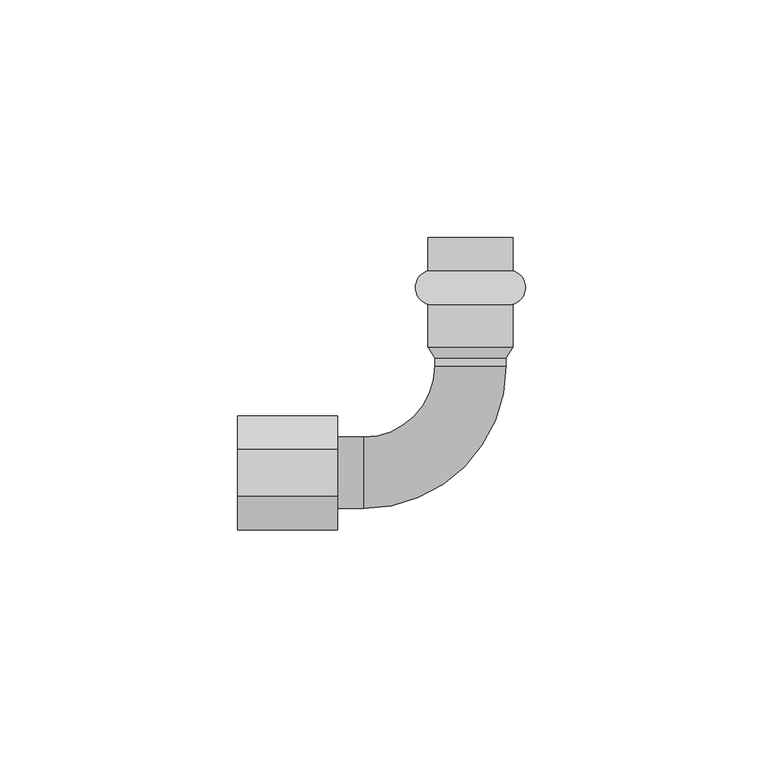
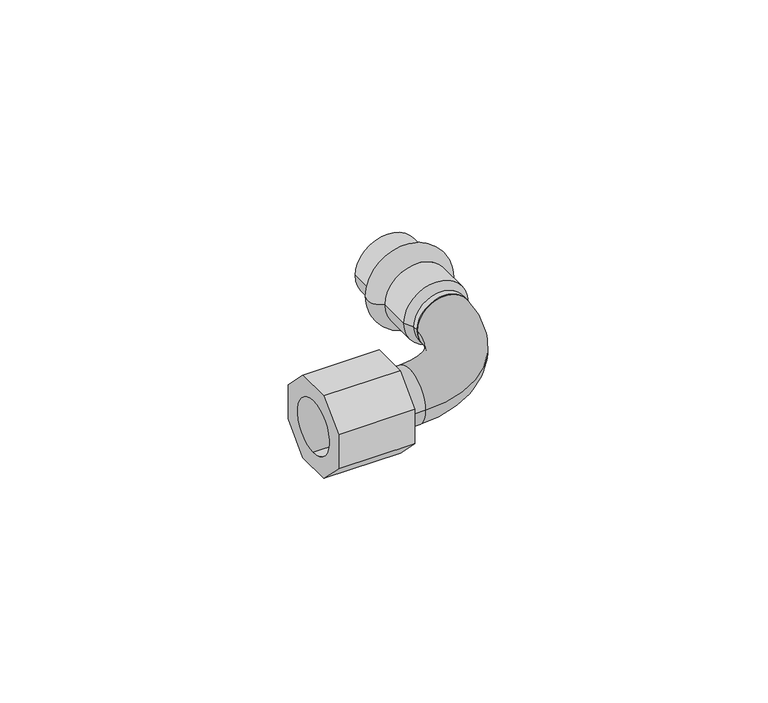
"""IFC4 building model written with IfcOpenShell, lengths in millimetres: valve geometry, Отвод_90°_с_переходом_на_внутреннюю_резьбу : Отвод_90°_с_переходом_на_внутреннюю_резьбу."""

from ifc_helpers import new_model, si_unit, point, frame, origin, origin_2d, place, context, project, spatial, polyline, circle_curve, ellipse_curve, trimmed, segment, composite_curve, outline, extrude, source, transform, mapped, element, save
from ifc_brep_helpers import plane_surface, cylinder_surface, revolved_surface, advanced_brep


def valve_882f7b1f(model_context):
    return source(origin(), model_context, "Body", "SolidModel", [
        extrude(outline(polyline([(4.9705627, -12.0), (-4.9705627, -12.0), (-12.0, -4.9705627), (-12.0, 4.9705627), (-4.9705627, 12.0), (4.9705627, 12.0), (12.0, 4.9705627), (12.0, -4.9705627), (4.9705627, -12.0)]), holes=[composite_curve([segment(trimmed(circle_curve(origin_2d(), 7.5), [point((0.0, 7.5))], [point((0.0, -7.5))], True, "CARTESIAN"), True, "CONTINUOUS"), segment(trimmed(circle_curve(origin_2d(), 7.5), [point((0.0, -7.5))], [point((0.0, 7.5))], True, "CARTESIAN"), True, "CONTINUOUS")], self_intersect=False)]), frame((-49.0, 0.0, 0.0), z_axis=(1.0, 0.0, 0.0), x_axis=(0.0, 1.0, 0.0)), (0.0, 0.0, 1.0), 21.0),
        advanced_brep(
        [(8.9, 42.56, 0.0), (-8.9, 42.56, 0.0), (-8.9, 49.5, 0.0), (8.9, 49.5, 0.0), (8.9, 35.44, 0.0), (-8.9, 35.44, 0.0), (8.9, 26.5, 0.0), (-8.9, 26.5, 0.0), (7.5, 24.16, 0.0), (-7.5, 24.16, 0.0), (7.5, 22.5, 0.0), (-7.5, 22.5, 0.0), (0.0, 22.5, 0.0), (0.0, 49.5, 0.0)],
        [
            (0, 1, circle_curve(frame((0.0, 42.56, 0.0), z_axis=(0.0, 1.0, 0.0), x_axis=(-1.0, 0.0, 0.0)), 8.9)),
            (1, 2),
            (2, 3, circle_curve(frame((0.0, 49.5, 0.0), z_axis=(0.0, -1.0, 0.0), x_axis=(-1.0, 0.0, 0.0)), 8.9)),
            (3, 0),
            (1, 0, circle_curve(frame((0.0, 42.56, 0.0), z_axis=(0.0, 1.0, 0.0), x_axis=(-1.0, 0.0, 0.0)), 8.9)),
            (3, 2, circle_curve(frame((0.0, 49.5, 0.0), z_axis=(0.0, -1.0, 0.0), x_axis=(-1.0, 0.0, 0.0)), 8.9)),
            (4, 5, circle_curve(frame((0.0, 35.44, 0.0), z_axis=(0.0, 1.0, 0.0), x_axis=(-1.0, 0.0, 0.0)), 8.9)),
            (5, 1, circle_curve(frame((-7.8504491, 39.0, 0.0), z_axis=(0.0, 0.0, -1.0), x_axis=(0.0, 1.0, 0.0)), 3.7114899)),
            (0, 4, circle_curve(frame((7.8504491, 39.0, 0.0), z_axis=(0.0, 0.0, -1.0), x_axis=(0.0, 1.0, 0.0)), 3.7114899)),
            (5, 4, circle_curve(frame((0.0, 35.44, 0.0), z_axis=(0.0, 1.0, 0.0), x_axis=(-1.0, 0.0, 0.0)), 8.9)),
            (6, 7, circle_curve(frame((0.0, 26.5, 0.0), z_axis=(0.0, 1.0, 0.0), x_axis=(-1.0, 0.0, 0.0)), 8.9)),
            (7, 5),
            (4, 6),
            (7, 6, circle_curve(frame((0.0, 26.5, 0.0), z_axis=(0.0, 1.0, 0.0), x_axis=(-1.0, 0.0, 0.0)), 8.9)),
            (8, 9, circle_curve(frame((0.0, 24.16, 0.0), z_axis=(0.0, 1.0, 0.0), x_axis=(-1.0, 0.0, 0.0)), 7.5)),
            (9, 7),
            (6, 8),
            (9, 8, circle_curve(frame((0.0, 24.16, 0.0), z_axis=(0.0, 1.0, 0.0), x_axis=(-1.0, 0.0, 0.0)), 7.5)),
            (10, 11, circle_curve(frame((0.0, 22.5, 0.0), z_axis=(0.0, 1.0, 0.0), x_axis=(-1.0, 0.0, 0.0)), 7.5)),
            (11, 9),
            (8, 10),
            (11, 10, circle_curve(frame((0.0, 22.5, 0.0), z_axis=(0.0, 1.0, 0.0), x_axis=(-1.0, 0.0, 0.0)), 7.5)),
            (12, 11),
            (10, 12),
            (2, 13),
            (13, 3),
        ],
        [
            cylinder_surface(frame((0.0, 2049.5, 0.0), z_axis=(0.0, -1.0, 0.0), x_axis=(-1.0, 0.0, 0.0)), 8.9),
            revolved_surface(trimmed(ellipse_curve(frame((-7.8504491, 39.0, 0.0), z_axis=(0.0, 0.0, 1.0), x_axis=(0.0, 1.0, 0.0)), 3.7114899, 3.7114899), [point((-8.9, 42.56, 0.0))], [point((-8.9, 35.44, 0.0))], True, "CARTESIAN"), (0.0, 2049.5, 0.0), (0.0, -1.0, 0.0)),
            revolved_surface(polyline([(-8.9, 26.5, 0.0), (-7.5, 24.16, 0.0)]), (0.0, 2049.5, 0.0), (0.0, -1.0, 0.0)),
            cylinder_surface(frame((0.0, 2049.5, 0.0), z_axis=(0.0, -1.0, 0.0), x_axis=(-1.0, 0.0, 0.0)), 7.5),
            plane_surface(frame((0.0, 22.5, 0.0), z_axis=(0.0, -1.0, 0.0), x_axis=(-1.0, 0.0, 0.0))),
            plane_surface(frame((0.0, 49.5, 0.0), z_axis=(0.0, 1.0, 0.0), x_axis=(-1.0, 0.0, 0.0))),
        ],
        [
            (0, [[1, 2, 3, 4]]),
            (0, [[5, -4, 6, -2]]),
            (1, [[7, 8, -1, 9]]),
            (1, [[10, -9, -5, -8]]),
            (0, [[11, 12, -7, 13]]),
            (0, [[14, -13, -10, -12]]),
            (2, [[15, 16, -11, 17]]),
            (2, [[18, -17, -14, -16]]),
            (3, [[19, 20, -15, 21]]),
            (3, [[22, -21, -18, -20]]),
            (4, [[23, -19, 24]]),
            (4, [[-24, -22, -23]]),
            (5, [[-3, 25, 26]]),
            (5, [[-6, -26, -25]]),
        ],
    ),
        advanced_brep(
        [(-22.5, -7.5, 0.0), (-22.5, 7.5, 0.0), (-22.5, 0.0, 0.0), (-28.0, -7.5, 0.0), (-28.0, 7.5, 0.0), (-28.0, 0.0, 0.0)],
        [
            (0, 1, circle_curve(frame((-22.5, 0.0, 0.0), z_axis=(1.0, 0.0, 0.0), x_axis=(0.0, 1.0, 0.0)), 7.5)),
            (1, 2),
            (2, 0),
            (1, 0, circle_curve(frame((-22.5, 0.0, 0.0), z_axis=(1.0, 0.0, 0.0), x_axis=(0.0, 1.0, 0.0)), 7.5)),
            (3, 4, circle_curve(frame((-28.0, 0.0, 0.0), z_axis=(1.0, 0.0, 0.0), x_axis=(0.0, 1.0, 0.0)), 7.5)),
            (4, 1),
            (0, 3),
            (4, 3, circle_curve(frame((-28.0, 0.0, 0.0), z_axis=(1.0, 0.0, 0.0), x_axis=(0.0, 1.0, 0.0)), 7.5)),
            (5, 4),
            (3, 5),
        ],
        [
            plane_surface(frame((-22.5, 0.0, 0.0), z_axis=(1.0, 0.0, 0.0), x_axis=(0.0, 1.0, 0.0))),
            cylinder_surface(frame((2000.0, 0.0, 0.0), z_axis=(-1.0, 0.0, 0.0), x_axis=(0.0, 1.0, 0.0)), 7.5),
            plane_surface(frame((-28.0, 0.0, 0.0), z_axis=(-1.0, 0.0, 0.0), x_axis=(0.0, 1.0, 0.0))),
        ],
        [
            (0, [[1, 2, 3]]),
            (0, [[4, -3, -2]]),
            (1, [[5, 6, -1, 7]]),
            (1, [[8, -7, -4, -6]]),
            (2, [[9, -5, 10]]),
            (2, [[-10, -8, -9]]),
        ],
    ),
        advanced_brep(
        [(-7.5, 22.5, 0.0), (7.5, 22.5, 0.0), (-22.5, 7.5, 0.0), (-22.5, -7.5, 0.0)],
        [
            (0, 1, circle_curve(frame((0.0, 22.5, 0.0), z_axis=(0.0, 1.0, 0.0), x_axis=(1.0, 0.0, 0.0)), 7.5)),
            (1, 0, circle_curve(frame((0.0, 22.5, 0.0), z_axis=(0.0, 1.0, 0.0), x_axis=(1.0, 0.0, 0.0)), 7.5)),
            (2, 3, circle_curve(frame((-22.5, 0.0, 0.0), z_axis=(-1.0, 0.0, 0.0), x_axis=(0.0, -1.0, 0.0)), 7.5)),
            (3, 2, circle_curve(frame((-22.5, 0.0, 0.0), z_axis=(-1.0, 0.0, 0.0), x_axis=(0.0, -1.0, 0.0)), 7.5)),
            (3, 1, circle_curve(frame((-22.5, 22.5, 0.0), z_axis=(0.0, 0.0, 1.0), x_axis=(1.0, 0.0, 0.0)), 30.0)),
            (0, 2, circle_curve(frame((-22.5, 22.5, 0.0), z_axis=(0.0, 0.0, -1.0), x_axis=(1.0, 0.0, 0.0)), 15.0)),
        ],
        [
            plane_surface(frame((0.0, 22.5, 0.0), z_axis=(0.0, 1.0, 0.0), x_axis=(0.0, 0.0, 1.0))),
            plane_surface(frame((-22.5, 0.0, 0.0), z_axis=(-1.0, 0.0, 0.0), x_axis=(0.0, 0.0, 1.0))),
            revolved_surface(trimmed(ellipse_curve(frame((0.0, 22.5, 0.0), z_axis=(0.0, 1.0, 0.0), x_axis=(1.0, 0.0, 0.0)), 7.5, 7.5), [point((-7.5, 22.5, 0.0))], [point((7.5, 22.5, 0.0))], True, "CARTESIAN"), (-22.5, 22.5, 0.0), (0.0, 0.0, -1.0)),
            revolved_surface(trimmed(ellipse_curve(frame((0.0, 22.5, 0.0), z_axis=(0.0, 1.0, 0.0), x_axis=(1.0, 0.0, 0.0)), 7.5, 7.5), [point((7.5, 22.5, 0.0))], [point((-7.5, 22.5, 0.0))], True, "CARTESIAN"), (-22.5, 22.5, 0.0), (0.0, 0.0, -1.0)),
        ],
        [
            (0, [[1, 2]]),
            (1, [[3, 4]]),
            (2, [[5, -1, 6, -4]]),
            (3, [[-6, -2, -5, -3]]),
        ],
    ),
    ])


if __name__ == "__main__":
    model = new_model("IFC4")
    model_context = context("Model", 3, world=origin())
    ifc_project = project(units=[si_unit("LENGTHUNIT", "METRE", prefix="MILLI")], contexts=[model_context])
    site = spatial("IfcSite", under=ifc_project)
    building = spatial("IfcBuilding", under=site)
    placement = place(None, origin())
    valve_shape = valve_882f7b1f(model_context)
    element("IfcValve", 1, ObjectType="Отвод_90°_с_переходом_на_внутреннюю_резьбу : Отвод_90°_с_переходом_на_внутреннюю_резьбу", at=placement, inside=building, context=model_context, shape_type="MappedRepresentation", body=[
        mapped(valve_shape, transform((0.0, 0.0, 0.0), x_axis=(1.0, 0.0, 0.0), y_axis=(0.0, 1.0, 0.0), z_axis=(0.0, 0.0, 1.0))),
    ])
    save(model, "model.ifc")
